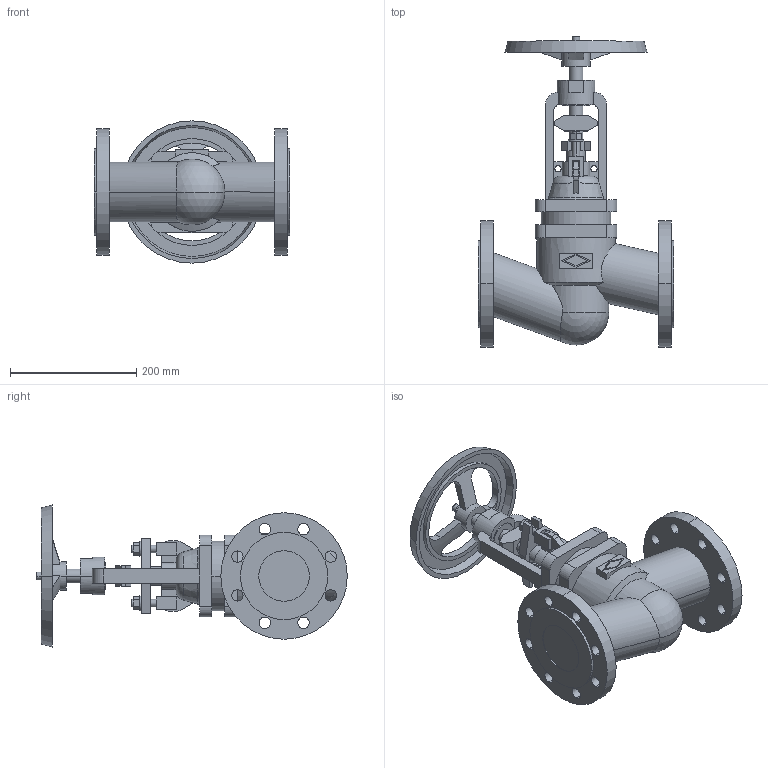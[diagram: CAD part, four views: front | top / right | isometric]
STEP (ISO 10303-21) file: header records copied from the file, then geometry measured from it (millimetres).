
FILE_DESCRIPTION(('OneSpaceDesigner STEP Export'),'2;1');
FILE_NAME('c000003753.stp','2009-06-16T10:59:43',(''),(''),'OneSpace Designer STEP processor for AP214 (Solid Model)','OneSpace Modeling 15.50B 03-Nov-2007 (C) CoCreate Software GmbH','');
FILE_SCHEMA(('AUTOMOTIVE_DESIGN { 1 0 10303 214 1 1 1 1 }'));
Length unit declared in the file: millimetre
Products named in the file (1): 1
Bounding box: 310 x 491.4 x 225 mm (x, y, z)
Volume: 5814084 mm3; surface area: 480213.6 mm2
Topology: 1 solids, 1 shells, 306 faces, 807 edges, 528 vertices
Faces by surface type: plane 155, cylinder 121, cone 18, torus 10, sphere 2
Entity records: 12021 total; most frequent: CARTESIAN_POINT 2347, ORIENTED_EDGE 1610, DIRECTION 1336, EDGE_CURVE 805, VERTEX_POINT 528, AXIS2_PLACEMENT_3D 448, VECTOR 440, LINE 440
